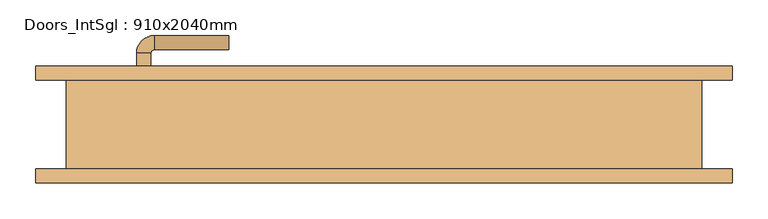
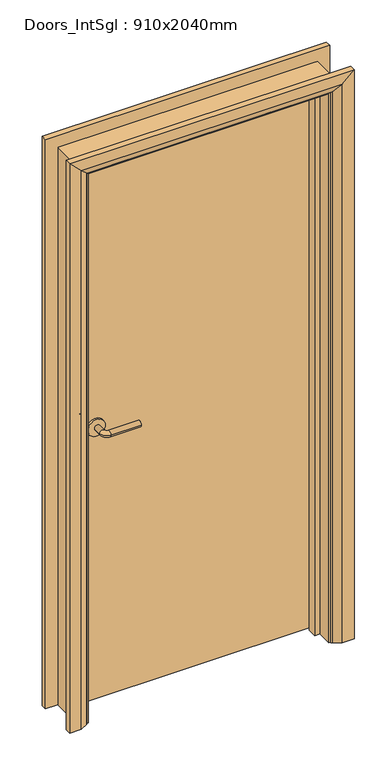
"""IFC4 building model written with IfcOpenShell, lengths in millimetres: door geometry, Doors_IntSgl : 910x2040mm."""

from ifc_helpers import new_model, si_unit, point, frame, frame_2d, origin, place, context, project, spatial, polyline, circle_curve, ellipse_curve, trimmed, segment, composite_curve, outline, extrude, faceted_brep, source, transform, mapped, element, save
from ifc_brep_helpers import plane_surface, cylinder_surface, revolved_surface, advanced_brep


def doors_intsgl_910x2040mm_be83dfe3(model_context):
    return source(origin(), model_context, "Body", "SolidModel", [
        advanced_brep(
        [(-348.0, 16.5, 1000.0), (-328.0, 16.5, 1000.0), (-328.0, -13.5, 1000.0), (-348.0, -13.5, 1000.0), (-323.0, -18.5, 1000.0), (-323.0, -38.5, 1000.0), (-218.0, -38.5, 1000.0), (-218.0, -18.5, 1000.0)],
        [
            (0, 1, circle_curve(frame((-338.0, 16.5, 1000.0), z_axis=(0.0, 1.0, 0.0), x_axis=(1.0, 0.0, 0.0)), 10.0)),
            (1, 0, circle_curve(frame((-338.0, 16.5, 1000.0), z_axis=(0.0, 1.0, 0.0), x_axis=(1.0, 0.0, 0.0)), 10.0)),
            (1, 2),
            (2, 3, circle_curve(frame((-338.0, -13.5, 1000.0), z_axis=(0.0, 1.0, 0.0), x_axis=(1.0, 0.0, 0.0)), 10.0)),
            (3, 0),
            (3, 2, circle_curve(frame((-338.0, -13.5, 1000.0), z_axis=(0.0, 1.0, 0.0), x_axis=(1.0, 0.0, 0.0)), 10.0)),
            (4, 5, circle_curve(frame((-323.0, -28.5, 1000.0), z_axis=(-1.0, 0.0, 0.0), x_axis=(0.0, 1.0, 0.0)), 10.0)),
            (5, 3, circle_curve(frame((-323.0, -13.5, 1000.0), z_axis=(0.0, 0.0, -1.0), x_axis=(-1.0, 0.0, 0.0)), 25.0)),
            (2, 4, circle_curve(frame((-323.0, -13.5, 1000.0), z_axis=(0.0, 0.0, 1.0), x_axis=(-1.0, 0.0, 0.0)), 5.0)),
            (5, 4, circle_curve(frame((-323.0, -28.5, 1000.0), z_axis=(-1.0, 0.0, 0.0), x_axis=(0.0, 1.0, 0.0)), 10.0)),
            (6, 7, circle_curve(frame((-218.0, -28.5, 1000.0), z_axis=(1.0, 0.0, 0.0), x_axis=(0.0, 1.0, 0.0)), 10.0)),
            (7, 6, circle_curve(frame((-218.0, -28.5, 1000.0), z_axis=(1.0, 0.0, 0.0), x_axis=(0.0, 1.0, 0.0)), 10.0)),
            (4, 7),
            (6, 5),
        ],
        [
            plane_surface(frame((-338.0, 16.5, 1000.0), z_axis=(0.0, 1.0, 0.0), x_axis=(0.0, 0.0, 1.0))),
            cylinder_surface(frame((-338.0, 16.5, 1000.0), z_axis=(0.0, 1.0, 0.0), x_axis=(1.0, 0.0, 0.0)), 10.0),
            revolved_surface(trimmed(ellipse_curve(frame((-338.0, -13.5, 1000.0), z_axis=(0.0, -1.0, 0.0), x_axis=(1.0, 0.0, 0.0)), 10.0, 10.0), [point((-348.0, -13.5, 1000.0))], [point((-328.0, -13.5, 1000.0))], True, "CARTESIAN"), (-323.0, -13.5, 1000.0), (0.0, 0.0, -1.0)),
            revolved_surface(trimmed(ellipse_curve(frame((-338.0, -13.5, 1000.0), z_axis=(0.0, -1.0, 0.0), x_axis=(1.0, 0.0, 0.0)), 10.0, 10.0), [point((-328.0, -13.5, 1000.0))], [point((-348.0, -13.5, 1000.0))], True, "CARTESIAN"), (-323.0, -13.5, 1000.0), (0.0, 0.0, -1.0)),
            plane_surface(frame((-218.0, -28.5, 1000.0), z_axis=(1.0, 0.0, 0.0), x_axis=(0.0, 0.0, 1.0))),
            cylinder_surface(frame((-323.0, -28.5, 1000.0), z_axis=(-1.0, 0.0, 0.0), x_axis=(0.0, 1.0, 0.0)), 10.0),
        ],
        [
            (0, [[1, 2]]),
            (1, [[3, 4, 5, -2]]),
            (1, [[-5, 6, -3, -1]]),
            (2, [[7, 8, -4, 9]]),
            (3, [[10, -9, -6, -8]]),
            (4, [[11, 12]]),
            (5, [[13, -11, 14, -7]]),
            (5, [[-14, -12, -13, -10]]),
        ],
    ),
        extrude(outline(composite_curve([segment(trimmed(circle_curve(frame_2d((1000.0, -340.5)), 30.0), [point((1000.0, -370.5))], [point((1000.0, -310.5))], False, "CARTESIAN"), True, "CONTINUOUS"), segment(trimmed(circle_curve(frame_2d((1000.0, -340.5)), 30.0), [point((1000.0, -310.5))], [point((1000.0, -370.5))], False, "CARTESIAN"), True, "CONTINUOUS")], self_intersect=False)), frame((0.0, 16.5, 0.0), z_axis=(0.0, 1.0, 0.0), x_axis=(0.0, 0.0, 1.0)), (0.0, 0.0, 1.0), 8.0),
        advanced_brep(
        [(-348.0, 70.5, 1000.0), (-328.0, 70.5, 1000.0), (-348.0, 100.5, 1000.0), (-328.0, 100.5, 1000.0), (-323.0, 105.5, 1000.0), (-323.0, 125.5, 1000.0), (-218.0, 125.5, 1000.0), (-218.0, 105.5, 1000.0)],
        [
            (0, 1, circle_curve(frame((-338.0, 70.5, 1000.0), z_axis=(0.0, -1.0, 0.0), x_axis=(1.0, 0.0, 0.0)), 10.0)),
            (1, 0, circle_curve(frame((-338.0, 70.5, 1000.0), z_axis=(0.0, -1.0, 0.0), x_axis=(1.0, 0.0, 0.0)), 10.0)),
            (0, 2),
            (2, 3, circle_curve(frame((-338.0, 100.5, 1000.0), z_axis=(0.0, -1.0, 0.0), x_axis=(1.0, 0.0, 0.0)), 10.0)),
            (3, 1),
            (3, 2, circle_curve(frame((-338.0, 100.5, 1000.0), z_axis=(0.0, -1.0, 0.0), x_axis=(1.0, 0.0, 0.0)), 10.0)),
            (4, 3, circle_curve(frame((-323.0, 100.5, 1000.0), z_axis=(0.0, 0.0, 1.0), x_axis=(-1.0, 0.0, 0.0)), 5.0)),
            (2, 5, circle_curve(frame((-323.0, 100.5, 1000.0), z_axis=(0.0, 0.0, -1.0), x_axis=(-1.0, 0.0, 0.0)), 25.0)),
            (5, 4, circle_curve(frame((-323.0, 115.5, 1000.0), z_axis=(-1.0, 0.0, 0.0), x_axis=(0.0, -1.0, 0.0)), 10.0)),
            (4, 5, circle_curve(frame((-323.0, 115.5, 1000.0), z_axis=(-1.0, 0.0, 0.0), x_axis=(0.0, -1.0, 0.0)), 10.0)),
            (6, 7, circle_curve(frame((-218.0, 115.5, 1000.0), z_axis=(1.0, 0.0, 0.0), x_axis=(0.0, -1.0, 0.0)), 10.0)),
            (7, 6, circle_curve(frame((-218.0, 115.5, 1000.0), z_axis=(1.0, 0.0, 0.0), x_axis=(0.0, -1.0, 0.0)), 10.0)),
            (5, 6),
            (7, 4),
        ],
        [
            plane_surface(frame((-338.0, 70.5, 1000.0), z_axis=(0.0, -1.0, 0.0), x_axis=(0.0, 0.0, 1.0))),
            cylinder_surface(frame((-338.0, 70.5, 1000.0), z_axis=(0.0, -1.0, 0.0), x_axis=(1.0, 0.0, 0.0)), 10.0),
            revolved_surface(trimmed(ellipse_curve(frame((-338.0, 100.5, 1000.0), z_axis=(0.0, -1.0, 0.0), x_axis=(1.0, 0.0, 0.0)), 10.0, 10.0), [point((-348.0, 100.5, 1000.0))], [point((-328.0, 100.5, 1000.0))], True, "CARTESIAN"), (-323.0, 100.5, 1000.0), (0.0, 0.0, -1.0)),
            revolved_surface(trimmed(ellipse_curve(frame((-338.0, 100.5, 1000.0), z_axis=(0.0, -1.0, 0.0), x_axis=(1.0, 0.0, 0.0)), 10.0, 10.0), [point((-328.0, 100.5, 1000.0))], [point((-348.0, 100.5, 1000.0))], True, "CARTESIAN"), (-323.0, 100.5, 1000.0), (0.0, 0.0, -1.0)),
            plane_surface(frame((-218.0, 115.5, 1000.0), z_axis=(1.0, 0.0, 0.0), x_axis=(0.0, 0.0, 1.0))),
            cylinder_surface(frame((-323.0, 115.5, 1000.0), z_axis=(-1.0, 0.0, 0.0), x_axis=(0.0, -1.0, 0.0)), 10.0),
        ],
        [
            (0, [[1, 2]]),
            (1, [[-1, 3, 4, 5]]),
            (1, [[-2, -5, 6, -3]]),
            (2, [[7, -4, 8, 9]]),
            (3, [[-8, -6, -7, 10]]),
            (4, [[11, 12]]),
            (5, [[-9, 13, -12, 14]]),
            (5, [[-10, -14, -11, -13]]),
        ],
    ),
        extrude(outline(composite_curve([segment(trimmed(circle_curve(frame_2d((1000.0, -340.5)), 30.0), [point((1000.0, -370.5))], [point((1000.0, -310.5))], False, "CARTESIAN"), True, "CONTINUOUS"), segment(trimmed(circle_curve(frame_2d((1000.0, -340.5)), 30.0), [point((1000.0, -310.5))], [point((1000.0, -370.5))], False, "CARTESIAN"), True, "CONTINUOUS")], self_intersect=False)), frame((0.0, 62.5, 0.0), z_axis=(0.0, 1.0, 0.0), x_axis=(0.0, 0.0, 1.0)), (0.0, 0.0, 1.0), 8.0),
        extrude(outline(polyline([(413.0, 24.5), (-413.0, 24.5), (-413.0, 62.5), (413.0, 62.5), (413.0, 24.5)])), frame((0.0, 0.0, 8.0), z_axis=(0.0, 0.0, 1.0), x_axis=(1.0, 0.0, 0.0)), (0.0, 0.0, 1.0), 1990.0),
        advanced_brep(
        [(490.0, 82.5, 0.0), (490.0, 62.5, 0.0), (420.0, 62.5, 0.0), (424.0, 68.5, 0.0), (450.0, 82.5, 0.0), (490.0, 82.5, 2075.0), (490.0, 62.5, 2075.0), (-490.0, 62.5, 2075.0), (-490.0, 62.5, 0.0), (-420.0, 62.5, 0.0), (-420.0, 62.5, 2005.0), (420.0, 62.5, 2005.0), (424.0, 68.5, 2009.0), (450.0, 82.5, 2035.0), (-450.0, 82.5, 2035.0), (-450.0, 82.5, 0.0), (-490.0, 82.5, 0.0), (-490.0, 82.5, 2075.0), (-424.0, 68.5, 0.0), (-424.0, 68.5, 2009.0)],
        [
            (0, 1),
            (1, 2),
            (2, 3, circle_curve(frame((428.0, 61.5, 0.0), z_axis=(0.0, 0.0, -1.0), x_axis=(1.0, 0.0, 0.0)), 8.0622577)),
            (3, 4),
            (4, 0),
            (0, 5),
            (5, 6),
            (6, 1),
            (6, 7),
            (7, 8),
            (8, 9),
            (9, 10),
            (10, 11),
            (11, 2),
            (11, 12, ellipse_curve(frame((428.0, 61.5, 2013.0), z_axis=(0.7071067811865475, 0.0, -0.7071067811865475), x_axis=(-0.7071067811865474, 0.0, -0.7071067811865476)), 11.4017543, 8.0622577)),
            (12, 3),
            (12, 13),
            (13, 4),
            (13, 14),
            (14, 15),
            (15, 16),
            (16, 17),
            (17, 5),
            (7, 17),
            (16, 8),
            (15, 18),
            (18, 9, circle_curve(frame((-428.0, 61.5, 0.0), z_axis=(0.0, 0.0, -1.0), x_axis=(-1.0, 0.0, 0.0)), 8.0622577)),
            (19, 10, ellipse_curve(frame((-428.0, 61.5, 2013.0), z_axis=(-0.7071067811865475, 0.0, -0.7071067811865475), x_axis=(-0.7071067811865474, 0.0, 0.7071067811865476)), 11.4017543, 8.0622577)),
            (18, 19),
            (14, 19),
            (19, 12),
        ],
        [
            plane_surface(frame((420.0, 62.5, 0.0), z_axis=(0.0, 0.0, -1.0), x_axis=(0.0, -1.0, 0.0))),
            plane_surface(frame((490.0, 82.5, 0.0), z_axis=(1.0, 0.0, 0.0), x_axis=(0.0, 0.0, 1.0))),
            plane_surface(frame((490.0, 62.5, 0.0), z_axis=(0.0, -1.0, 0.0), x_axis=(0.0, 0.0, 1.0))),
            cylinder_surface(frame((428.0, 61.5, 0.0), z_axis=(0.0, 0.0, -1.0), x_axis=(1.0, 0.0, 0.0)), 8.0622577),
            plane_surface(frame((424.0, 68.5, 0.0), z_axis=(-0.4740998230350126, 0.880471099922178, 0.0), x_axis=(0.0, 0.0, 1.0))),
            plane_surface(frame((450.0, 82.5, 0.0), z_axis=(0.0, 1.0, 0.0), x_axis=(0.0, 0.0, 1.0))),
            plane_surface(frame((-490.0, 82.5, 2075.0), z_axis=(-1.0, 0.0, 0.0), x_axis=(0.0, 0.0, -1.0))),
            plane_surface(frame((-420.0, 62.5, 0.0), z_axis=(0.0, 0.0, -1.0), x_axis=(0.0, -1.0, 0.0))),
            cylinder_surface(frame((-428.0, 61.5, 2005.0), z_axis=(0.0, 0.0, 1.0), x_axis=(-1.0, 0.0, 0.0)), 8.0622577),
            plane_surface(frame((-424.0, 68.5, 2009.0), z_axis=(0.47409982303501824, 0.8804710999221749, 0.0), x_axis=(0.0, 0.0, -1.0))),
            plane_surface(frame((490.0, 82.5, 2075.0), z_axis=(0.0, 0.0, 1.0), x_axis=(-1.0, 0.0, 0.0))),
            cylinder_surface(frame((420.0, 61.5, 2013.0), z_axis=(1.0, 0.0, 0.0), x_axis=(0.0, 0.0, 1.0)), 8.0622577),
            plane_surface(frame((424.0, 68.5, 2009.0), z_axis=(0.0, 0.8804710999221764, -0.4740998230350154), x_axis=(-1.0, 0.0, 0.0))),
        ],
        [
            (0, [[1, 2, 3, 4, 5]]),
            (1, [[-1, 6, 7, 8]]),
            (2, [[-2, -8, 9, 10, 11, 12, 13, 14]]),
            (3, [[-3, -14, 15, 16]]),
            (4, [[-4, -16, 17, 18]]),
            (5, [[-5, -18, 19, 20, 21, 22, 23, -6]]),
            (6, [[24, -22, 25, -10]]),
            (7, [[-21, 26, 27, -11, -25]]),
            (8, [[28, -12, -27, 29]]),
            (9, [[30, -29, -26, -20]]),
            (10, [[-7, -23, -24, -9]]),
            (11, [[-15, -13, -28, 31]]),
            (12, [[-17, -31, -30, -19]]),
        ],
    ),
        extrude(outline(polyline([(0.0, -415.0), (0.0, -396.0), (1981.0, -396.0), (1981.0, 396.0), (0.0, 396.0), (0.0, 415.0), (2000.0, 415.0), (2000.0, -415.0), (0.0, -415.0)])), frame((0.0, -9.5, 0.0), z_axis=(0.0, 1.0, 0.0), x_axis=(0.0, 0.0, 1.0)), (0.0, 0.0, 1.0), 32.0),
        advanced_brep(
        [(-490.0, -82.5, 0.0), (-490.0, -62.5, 0.0), (-420.0, -62.5, 0.0), (-424.0, -68.5, 0.0), (-450.0, -82.5, 0.0), (-490.0, -82.5, 2075.0), (-490.0, -62.5, 2075.0), (-420.0, -62.5, 2005.0), (-424.0, -68.5, 2009.0), (-450.0, -82.5, 2035.0), (490.0, -82.5, 0.0), (450.0, -82.5, 0.0), (424.0, -68.5, 0.0), (420.0, -62.5, 0.0), (490.0, -62.5, 0.0), (490.0, -82.5, 2075.0), (450.0, -82.5, 2035.0), (424.0, -68.5, 2009.0), (420.0, -62.5, 2005.0), (490.0, -62.5, 2075.0)],
        [
            (0, 1),
            (1, 2),
            (2, 3, circle_curve(frame((-428.0, -61.5, 0.0), z_axis=(0.0, 0.0, -1.0), x_axis=(-1.0, 0.0, 0.0)), 8.0622577)),
            (3, 4),
            (4, 0),
            (0, 5),
            (5, 6),
            (6, 1),
            (6, 7),
            (7, 2),
            (7, 8, ellipse_curve(frame((-428.0, -61.5, 2013.0), z_axis=(-0.7071067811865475, 0.0, -0.7071067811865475), x_axis=(0.7071067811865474, 0.0, -0.7071067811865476)), 11.4017543, 8.0622577)),
            (8, 3),
            (8, 9),
            (9, 4),
            (9, 5),
            (10, 11),
            (11, 12),
            (12, 13, circle_curve(frame((428.0, -61.5, 0.0), z_axis=(0.0, 0.0, -1.0), x_axis=(1.0, 0.0, 0.0)), 8.0622577)),
            (13, 14),
            (14, 10),
            (15, 16),
            (16, 11),
            (10, 15),
            (16, 17),
            (17, 12),
            (17, 18, ellipse_curve(frame((428.0, -61.5, 2013.0), z_axis=(0.7071067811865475, 0.0, -0.7071067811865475), x_axis=(0.7071067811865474, 0.0, 0.7071067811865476)), 11.4017543, 8.0622577)),
            (18, 13),
            (18, 19),
            (19, 14),
            (19, 15),
            (5, 15),
            (19, 6),
            (18, 7),
            (17, 8),
            (16, 9),
        ],
        [
            plane_surface(frame((-420.0, -135.3010989, 0.0), z_axis=(0.0, 0.0, -1.0), x_axis=(1.0, 0.0, 0.0))),
            plane_surface(frame((-490.0, -82.5, 0.0), z_axis=(-1.0, 0.0, 0.0), x_axis=(0.0, 0.0, 1.0))),
            plane_surface(frame((-490.0, -62.5, 0.0), z_axis=(0.0, 1.0, 0.0), x_axis=(0.0, 0.0, 1.0))),
            cylinder_surface(frame((-428.0, -61.5, 0.0), z_axis=(0.0, 0.0, -1.0), x_axis=(-1.0, 0.0, 0.0)), 8.0622577),
            plane_surface(frame((-424.0, -68.5, 0.0), z_axis=(0.4740998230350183, -0.8804710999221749, 0.0), x_axis=(0.0, 0.0, 1.0))),
            plane_surface(frame((-450.0, -82.5, 0.0), z_axis=(0.0, -1.0, 0.0), x_axis=(0.0, 0.0, 1.0))),
            plane_surface(frame((420.0, -135.3010989, 0.0), z_axis=(0.0, 0.0, -1.0), x_axis=(-1.0, 0.0, 0.0))),
            plane_surface(frame((450.0, -82.5, 2035.0), z_axis=(0.0, -1.0, 0.0), x_axis=(0.0, 0.0, -1.0))),
            plane_surface(frame((424.0, -68.5, 2009.0), z_axis=(-0.4740998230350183, -0.8804710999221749, 0.0), x_axis=(0.0, 0.0, -1.0))),
            cylinder_surface(frame((428.0, -61.5, 2005.0), z_axis=(0.0, 0.0, 1.0), x_axis=(1.0, 0.0, 0.0)), 8.0622577),
            plane_surface(frame((490.0, -62.5, 2075.0), z_axis=(0.0, 1.0, 0.0), x_axis=(0.0, 0.0, -1.0))),
            plane_surface(frame((490.0, -82.5, 2075.0), z_axis=(1.0, 0.0, 0.0), x_axis=(0.0, 0.0, -1.0))),
            plane_surface(frame((-490.0, -82.5, 2075.0), z_axis=(0.0, 0.0, 1.0), x_axis=(1.0, 0.0, 0.0))),
            plane_surface(frame((-490.0, -62.5, 2075.0), z_axis=(0.0, 1.0, 0.0), x_axis=(1.0, 0.0, 0.0))),
            cylinder_surface(frame((-420.0, -61.5, 2013.0), z_axis=(-1.0, 0.0, 0.0), x_axis=(0.0, 0.0, 1.0)), 8.0622577),
            plane_surface(frame((-424.0, -68.5, 2009.0), z_axis=(0.0, -0.8804710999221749, -0.4740998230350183), x_axis=(1.0, 0.0, 0.0))),
            plane_surface(frame((-450.0, -82.5, 2035.0), z_axis=(0.0, -1.0, 0.0), x_axis=(1.0, 0.0, 0.0))),
        ],
        [
            (0, [[1, 2, 3, 4, 5]]),
            (1, [[-1, 6, 7, 8]]),
            (2, [[-2, -8, 9, 10]]),
            (3, [[-3, -10, 11, 12]]),
            (4, [[-4, -12, 13, 14]]),
            (5, [[-5, -14, 15, -6]]),
            (6, [[16, 17, 18, 19, 20]]),
            (7, [[21, 22, -16, 23]]),
            (8, [[24, 25, -17, -22]]),
            (9, [[26, 27, -18, -25]]),
            (10, [[28, 29, -19, -27]]),
            (11, [[30, -23, -20, -29]]),
            (12, [[-7, 31, -30, 32]]),
            (13, [[-9, -32, -28, 33]]),
            (14, [[-11, -33, -26, 34]]),
            (15, [[-13, -34, -24, 35]]),
            (16, [[-15, -35, -21, -31]]),
        ],
    ),
        faceted_brep([(-415.0, 62.5, 0.0), (-415.0, -62.5, 0.0), (-447.0, -62.5, 0.0), (-447.0, 62.5, 0.0), (-415.0, 62.5, 2000.0), (-415.0, -62.5, 2000.0), (-447.0, -62.5, 2032.0), (-447.0, 62.5, 2032.0), (415.0, 62.5, 0.0), (447.0, 62.5, 0.0), (447.0, -62.5, 0.0), (415.0, -62.5, 0.0), (415.0, 62.5, 2000.0), (447.0, 62.5, 2032.0), (447.0, -62.5, 2032.0), (415.0, -62.5, 2000.0)], [[[0, 1, 2, 3]], [[1, 0, 4, 5]], [[2, 1, 5, 6]], [[3, 2, 6, 7]], [[0, 3, 7, 4]], [[8, 9, 10, 11]], [[12, 13, 9, 8]], [[13, 14, 10, 9]], [[14, 15, 11, 10]], [[15, 12, 8, 11]], [[5, 4, 12, 15]], [[6, 5, 15, 14]], [[7, 6, 14, 13]], [[4, 7, 13, 12]]]),
    ])


if __name__ == "__main__":
    model = new_model("IFC4")
    model_context = context("Model", 3, world=origin())
    ifc_project = project(units=[si_unit("LENGTHUNIT", "METRE", prefix="MILLI")], contexts=[model_context])
    site = spatial("IfcSite", under=ifc_project)
    building = spatial("IfcBuilding", under=site)
    placement = place(None, origin())
    doors_intsgl_910x2040mm_shape = doors_intsgl_910x2040mm_be83dfe3(model_context)
    element("IfcDoor", 1, ObjectType="Doors_IntSgl : 910x2040mm", at=placement, inside=building, context=model_context, shape_type="MappedRepresentation", body=[
        mapped(doors_intsgl_910x2040mm_shape, transform((0.0, 0.0, 0.0), x_axis=(1.0, 0.0, 0.0), y_axis=(0.0, 1.0, 0.0), z_axis=(0.0, 0.0, 1.0))),
    ])
    save(model, "model.ifc")
